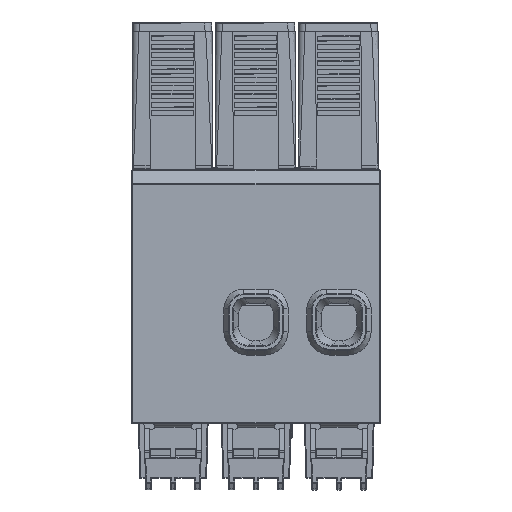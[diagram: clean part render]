
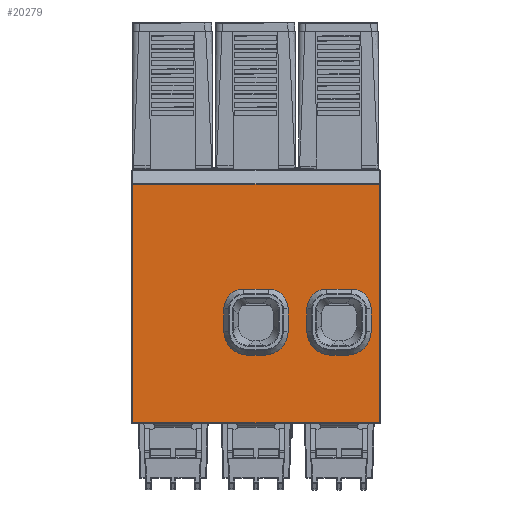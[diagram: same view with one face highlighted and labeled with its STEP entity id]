
A CAD part, front view. The second image highlights one B-rep face of the part: STEP entity #20279.
In plain terms, the highlighted planar face has unit normal (0, -1, 0) as drawn and (1, 0, 0) by its records, which use the part's own axes.
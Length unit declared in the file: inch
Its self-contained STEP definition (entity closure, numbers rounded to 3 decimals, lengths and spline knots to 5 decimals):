
#20279=ADVANCED_FACE('',(#57764,#57765,#57766),#57767,.F.);
#25397=EDGE_CURVE('',#65100,#65101,#65102,.T.);
#25403=EDGE_CURVE('',#65108,#65101,#65109,.T.);
#25407=EDGE_CURVE('',#65113,#65108,#65114,.T.);
#25413=EDGE_CURVE('',#65118,#65113,#65121,.T.);
#25415=EDGE_CURVE('',#65118,#65123,#65124,.T.);
#25419=EDGE_CURVE('',#65123,#65128,#65129,.T.);
#25423=EDGE_CURVE('',#65128,#65133,#65134,.T.);
#25427=EDGE_CURVE('',#65133,#65100,#65138,.T.);
#25429=EDGE_CURVE('',#65140,#65141,#65142,.T.);
#25435=EDGE_CURVE('',#65148,#65141,#65149,.T.);
#25439=EDGE_CURVE('',#65153,#65148,#65154,.T.);
#25445=EDGE_CURVE('',#65158,#65153,#65161,.T.);
#25447=EDGE_CURVE('',#65158,#65163,#65164,.T.);
#25451=EDGE_CURVE('',#65163,#65168,#65169,.T.);
#25455=EDGE_CURVE('',#65168,#65173,#65174,.T.);
#25459=EDGE_CURVE('',#65173,#65140,#65178,.T.);
#25463=EDGE_CURVE('',#64334,#65180,#65183,.T.);
#25467=EDGE_CURVE('',#64399,#64334,#65187,.T.);
#25509=EDGE_CURVE('',#65238,#64399,#65239,.T.);
#26187=EDGE_CURVE('',#65180,#65238,#66124,.T.);
#57764=FACE_OUTER_BOUND('',#111612,.T.);
#57765=FACE_BOUND('',#111613,.T.);
#57766=FACE_BOUND('',#111614,.T.);
#57767=PLANE('',#111615);
#64334=VERTEX_POINT('',#122265);
#64399=VERTEX_POINT('',#122362);
#65100=VERTEX_POINT('',#123515);
#65101=VERTEX_POINT('',#123516);
#65102=CIRCLE('',#123517,0.17009);
#65108=VERTEX_POINT('',#123528);
#65109=LINE('',#123529,#123530);
#65113=VERTEX_POINT('',#123537);
#65114=CIRCLE('',#123538,0.17009);
#65118=VERTEX_POINT('',#123545);
#65121=LINE('',#123550,#123551);
#65123=VERTEX_POINT('',#123554);
#65124=CIRCLE('',#123555,0.20552);
#65128=VERTEX_POINT('',#123562);
#65129=LINE('',#123563,#123564);
#65133=VERTEX_POINT('',#123571);
#65134=CIRCLE('',#123572,0.20552);
#65138=LINE('',#123579,#123580);
#65140=VERTEX_POINT('',#123583);
#65141=VERTEX_POINT('',#123584);
#65142=CIRCLE('',#123585,0.17009);
#65148=VERTEX_POINT('',#123596);
#65149=LINE('',#123597,#123598);
#65153=VERTEX_POINT('',#123605);
#65154=CIRCLE('',#123606,0.17009);
#65158=VERTEX_POINT('',#123613);
#65161=LINE('',#123618,#123619);
#65163=VERTEX_POINT('',#123622);
#65164=CIRCLE('',#123623,0.20552);
#65168=VERTEX_POINT('',#123630);
#65169=LINE('',#123631,#123632);
#65173=VERTEX_POINT('',#123639);
#65174=CIRCLE('',#123640,0.20552);
#65178=LINE('',#123647,#123648);
#65180=VERTEX_POINT('',#123651);
#65183=LINE('',#123655,#123656);
#65187=LINE('',#123663,#123664);
#65238=VERTEX_POINT('',#123747);
#65239=LINE('',#123748,#123749);
#66124=LINE('',#125265,#125266);
#111612=EDGE_LOOP('',(#197164,#197165,#197166,#197167));
#111613=EDGE_LOOP('',(#197168,#197169,#197170,#197171,#197172,#197173,#197174,#197175));
#111614=EDGE_LOOP('',(#197176,#197177,#197178,#197179,#197180,#197181,#197182,#197183));
#111615=AXIS2_PLACEMENT_3D('',#197184,#197185,#197186);
#122265=CARTESIAN_POINT('',(4.7252,1.61023,1.75984));
#122362=CARTESIAN_POINT('',(4.7252,1.61023,-0.34252));
#123515=CARTESIAN_POINT('',(4.7252,0.54512,0.4344));
#123516=CARTESIAN_POINT('',(4.7252,0.71521,0.60449));
#123517=AXIS2_PLACEMENT_3D('',#207982,#207983,#207984);
#123528=CARTESIAN_POINT('',(4.7252,0.71521,0.81283));
#123529=CARTESIAN_POINT('',(4.7252,0.71521,-0.28937));
#123530=VECTOR('',#207987,1000.0);
#123537=CARTESIAN_POINT('',(4.7252,0.54512,0.98292));
#123538=AXIS2_PLACEMENT_3D('',#207989,#207990,#207991);
#123545=CARTESIAN_POINT('',(4.7252,0.35646,0.98292));
#123550=CARTESIAN_POINT('',(4.7252,1.32335,0.98292));
#123551=VECTOR('',#207994,1000.0);
#123554=CARTESIAN_POINT('',(4.7252,0.15093,0.7774));
#123555=AXIS2_PLACEMENT_3D('',#207995,#207996,#207997);
#123562=CARTESIAN_POINT('',(4.7252,0.15093,0.63992));
#123563=CARTESIAN_POINT('',(4.7252,0.15093,1.06299));
#123564=VECTOR('',#207999,1000.0);
#123571=CARTESIAN_POINT('',(4.7252,0.35646,0.4344));
#123572=AXIS2_PLACEMENT_3D('',#208001,#208002,#208003);
#123579=CARTESIAN_POINT('',(4.7252,0.5913,0.4344));
#123580=VECTOR('',#208005,1000.0);
#123583=CARTESIAN_POINT('',(4.7252,0.54512,-0.27426));
#123584=CARTESIAN_POINT('',(4.7252,0.71521,-0.10417));
#123585=AXIS2_PLACEMENT_3D('',#208006,#208007,#208008);
#123596=CARTESIAN_POINT('',(4.7252,0.71521,0.10417));
#123597=CARTESIAN_POINT('',(4.7252,0.71521,-0.28937));
#123598=VECTOR('',#208011,1000.0);
#123605=CARTESIAN_POINT('',(4.7252,0.54512,0.27426));
#123606=AXIS2_PLACEMENT_3D('',#208013,#208014,#208015);
#123613=CARTESIAN_POINT('',(4.7252,0.35646,0.27426));
#123618=CARTESIAN_POINT('',(4.7252,1.32335,0.27426));
#123619=VECTOR('',#208018,1000.0);
#123622=CARTESIAN_POINT('',(4.7252,0.15093,0.06874));
#123623=AXIS2_PLACEMENT_3D('',#208019,#208020,#208021);
#123630=CARTESIAN_POINT('',(4.7252,0.15093,-0.06874));
#123631=CARTESIAN_POINT('',(4.7252,0.15093,1.06299));
#123632=VECTOR('',#208023,1000.0);
#123639=CARTESIAN_POINT('',(4.7252,0.35646,-0.27426));
#123640=AXIS2_PLACEMENT_3D('',#208025,#208026,#208027);
#123647=CARTESIAN_POINT('',(4.7252,0.23622,-0.27426));
#123648=VECTOR('',#208029,1000.0);
#123651=CARTESIAN_POINT('',(4.7252,-0.4252,1.75984));
#123655=CARTESIAN_POINT('',(4.7252,0.00787,1.75984));
#123656=VECTOR('',#208033,1000.0);
#123663=CARTESIAN_POINT('',(4.7252,1.61023,1.76772));
#123664=VECTOR('',#208035,1000.0);
#123747=CARTESIAN_POINT('',(4.7252,-0.4252,-0.34252));
#123748=CARTESIAN_POINT('',(4.7252,1.32335,-0.34252));
#123749=VECTOR('',#208074,1000.0);
#125265=CARTESIAN_POINT('',(4.7252,-0.4252,2.47638));
#125266=VECTOR('',#208617,1000.0);
#197164=ORIENTED_EDGE('',*,*,#26187,.T.);
#197165=ORIENTED_EDGE('',*,*,#25509,.T.);
#197166=ORIENTED_EDGE('',*,*,#25467,.T.);
#197167=ORIENTED_EDGE('',*,*,#25463,.T.);
#197168=ORIENTED_EDGE('',*,*,#25459,.F.);
#197169=ORIENTED_EDGE('',*,*,#25455,.F.);
#197170=ORIENTED_EDGE('',*,*,#25451,.F.);
#197171=ORIENTED_EDGE('',*,*,#25447,.F.);
#197172=ORIENTED_EDGE('',*,*,#25445,.T.);
#197173=ORIENTED_EDGE('',*,*,#25439,.T.);
#197174=ORIENTED_EDGE('',*,*,#25435,.T.);
#197175=ORIENTED_EDGE('',*,*,#25429,.F.);
#197176=ORIENTED_EDGE('',*,*,#25427,.F.);
#197177=ORIENTED_EDGE('',*,*,#25423,.F.);
#197178=ORIENTED_EDGE('',*,*,#25419,.F.);
#197179=ORIENTED_EDGE('',*,*,#25415,.F.);
#197180=ORIENTED_EDGE('',*,*,#25413,.T.);
#197181=ORIENTED_EDGE('',*,*,#25407,.T.);
#197182=ORIENTED_EDGE('',*,*,#25403,.T.);
#197183=ORIENTED_EDGE('',*,*,#25397,.F.);
#197184=CARTESIAN_POINT('',(4.7252,1.32335,-0.28937));
#197185=DIRECTION('',(-1.0,0.0,0.0));
#197186=DIRECTION('',(0.0,-1.0,0.0));
#207982=CARTESIAN_POINT('',(4.7252,0.54512,0.60449));
#207983=DIRECTION('',(1.0,0.0,-0.0));
#207984=DIRECTION('',(0.0,0.0,1.0));
#207987=DIRECTION('',(0.0,0.,-1.0));
#207989=CARTESIAN_POINT('',(4.7252,0.54512,0.81283));
#207990=DIRECTION('',(-1.0,0.0,0.0));
#207991=DIRECTION('',(0.0,0.0,1.0));
#207994=DIRECTION('',(0.0,1.0,0.));
#207995=CARTESIAN_POINT('',(4.7252,0.35646,0.7774));
#207996=DIRECTION('',(1.0,0.0,-0.0));
#207997=DIRECTION('',(0.0,0.0,1.0));
#207999=DIRECTION('',(0.0,0.,-1.0));
#208001=CARTESIAN_POINT('',(4.7252,0.35646,0.63992));
#208002=DIRECTION('',(1.0,0.0,-0.0));
#208003=DIRECTION('',(0.0,0.0,1.0));
#208005=DIRECTION('',(0.0,1.0,0.));
#208006=CARTESIAN_POINT('',(4.7252,0.54512,-0.10417));
#208007=DIRECTION('',(1.0,0.0,0.0));
#208008=DIRECTION('',(0.0,0.0,-1.0));
#208011=DIRECTION('',(0.0,0.,-1.0));
#208013=CARTESIAN_POINT('',(4.7252,0.54512,0.10417));
#208014=DIRECTION('',(-1.0,0.0,0.0));
#208015=DIRECTION('',(0.0,0.0,1.0));
#208018=DIRECTION('',(0.0,1.0,0.));
#208019=CARTESIAN_POINT('',(4.7252,0.35646,0.06874));
#208020=DIRECTION('',(1.0,0.0,-0.0));
#208021=DIRECTION('',(0.0,0.0,1.0));
#208023=DIRECTION('',(0.0,0.,-1.0));
#208025=CARTESIAN_POINT('',(4.7252,0.35646,-0.06874));
#208026=DIRECTION('',(1.0,0.0,-0.0));
#208027=DIRECTION('',(0.0,0.0,1.0));
#208029=DIRECTION('',(0.0,1.0,0.));
#208033=DIRECTION('',(0.0,-1.0,0.0));
#208035=DIRECTION('',(0.0,0.0,1.0));
#208074=DIRECTION('',(0.0,1.0,0.0));
#208617=DIRECTION('',(0.0,0.0,-1.0));
